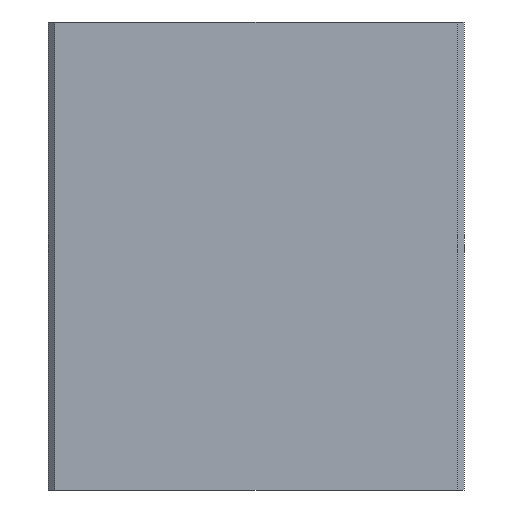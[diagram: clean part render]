
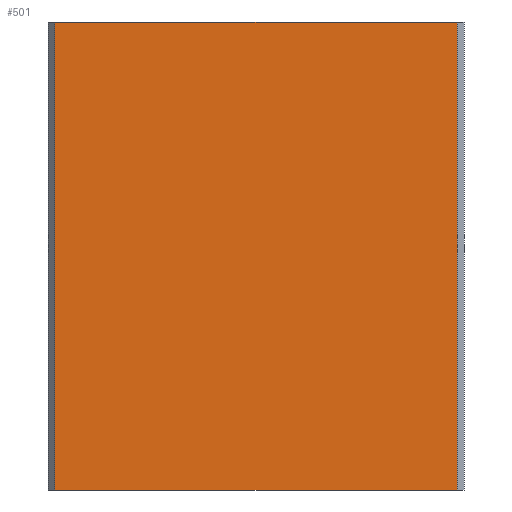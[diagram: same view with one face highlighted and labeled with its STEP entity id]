
A CAD part, left-side view. The second image highlights one B-rep face of the part: STEP entity #501.
In plain terms, the highlighted planar face has unit normal (-1, 0, 0).
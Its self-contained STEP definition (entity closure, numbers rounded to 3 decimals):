
#474=AXIS2_PLACEMENT_3D('Plane Axis2P3D',#471,#472,#473) ;
#304=CARTESIAN_POINT('Line Origine',(-17.5,29.,-33.75)) ;
#308=CARTESIAN_POINT('Vertex',(-17.5,29.,0.)) ;
#310=CARTESIAN_POINT('Vertex',(-17.5,29.,-67.5)) ;
#471=CARTESIAN_POINT('Axis2P3D Location',(-17.5,-30.,0.)) ;
#476=CARTESIAN_POINT('Line Origine',(-17.5,0.,0.)) ;
#480=CARTESIAN_POINT('Vertex',(-17.5,-29.,0.)) ;
#483=CARTESIAN_POINT('Line Origine',(-17.5,0.,-67.5)) ;
#487=CARTESIAN_POINT('Vertex',(-17.5,-29.,-67.5)) ;
#490=CARTESIAN_POINT('Line Origine',(-17.5,-29.,-33.75)) ;
#305=DIRECTION('Vector Direction',(0.,0.,1.)) ;
#472=DIRECTION('Axis2P3D Direction',(-1.,0.,0.)) ;
#473=DIRECTION('Axis2P3D XDirection',(0.,1.,0.)) ;
#477=DIRECTION('Vector Direction',(0.,1.,0.)) ;
#484=DIRECTION('Vector Direction',(0.,1.,0.)) ;
#491=DIRECTION('Vector Direction',(0.,0.,-1.)) ;
#306=VECTOR('Line Direction',#305,1.) ;
#478=VECTOR('Line Direction',#477,1.) ;
#485=VECTOR('Line Direction',#484,1.) ;
#492=VECTOR('Line Direction',#491,1.) ;
#496=ORIENTED_EDGE('',*,*,#482,.F.) ;
#497=ORIENTED_EDGE('',*,*,#312,.T.) ;
#498=ORIENTED_EDGE('',*,*,#489,.T.) ;
#499=ORIENTED_EDGE('',*,*,#494,.F.) ;
#501=ADVANCED_FACE('PartBody',(#500),#475,.T.) ;
#312=EDGE_CURVE('',#309,#311,#307,.F.) ;
#482=EDGE_CURVE('',#309,#481,#479,.F.) ;
#489=EDGE_CURVE('',#311,#488,#486,.F.) ;
#494=EDGE_CURVE('',#481,#488,#493,.T.) ;
#495=EDGE_LOOP('',(#496,#497,#498,#499)) ;
#500=FACE_OUTER_BOUND('',#495,.T.) ;
#307=LINE('Line',#304,#306) ;
#479=LINE('Line',#476,#478) ;
#486=LINE('Line',#483,#485) ;
#493=LINE('Line',#490,#492) ;
#475=PLANE('',#474) ;
#309=VERTEX_POINT('',#308) ;
#311=VERTEX_POINT('',#310) ;
#481=VERTEX_POINT('',#480) ;
#488=VERTEX_POINT('',#487) ;
